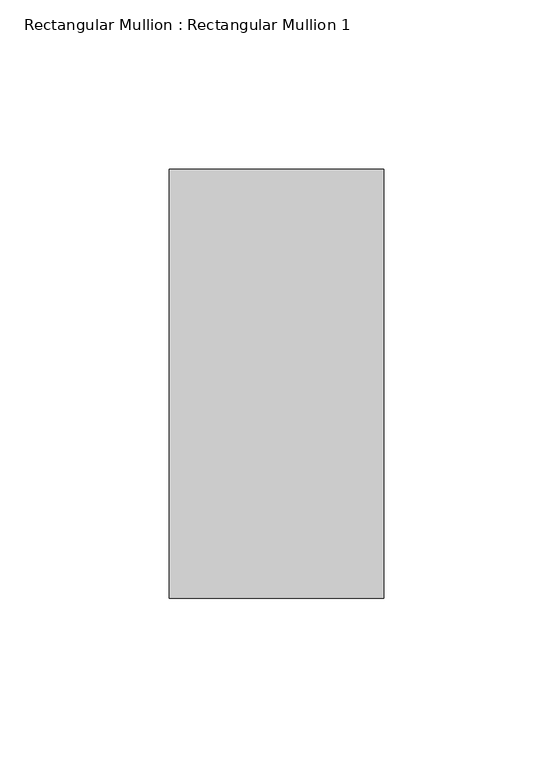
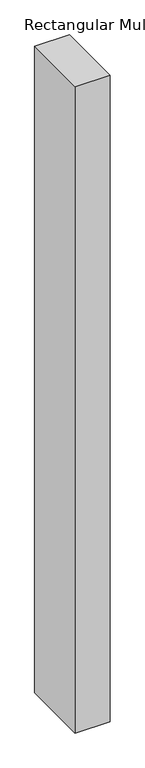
"""IFC4 building model written with IfcOpenShell, lengths in millimetres: member geometry, Rectangular Mullion : Rectangular Mullion 1."""

import ifcopenshell
import ifcopenshell.guid

model = None  # the IFC model being written
_history = None  # IfcOwnerHistory: only IFC2X3 demands one
_inside = {}  # id of a spatial element -> (the spatial element, [elements in it])
_under = {}  # id of a project, library or spatial element -> (it, [spatial elements below it])
_declared = {}  # id of a project -> (the project, [libraries it declares])
_typed = {}  # id of a type object -> (the type object, [elements of that type])
_made_of = {}  # id of a material, layer set ... -> (it, [elements and type objects made of it])


def new_model(schema):
    """Start an empty IFC model of exactly this schema.

    Asked for "IFC4X3", IfcOpenShell would pick the latest addendum, in which some entities
    have other attributes; the version numbers below select the first issue.
    IFC2X3 requires an IfcOwnerHistory on every rooted entity: one is made here for all.
    """
    global model, _history
    if schema == "IFC4X3":
        model = ifcopenshell.file(schema_version=(4, 3, 0, 0))
    else:
        model = ifcopenshell.file(schema=schema)
    _inside.clear()
    _under.clear()
    _declared.clear()
    _typed.clear()
    _made_of.clear()
    _history = None
    if model.schema == "IFC2X3":
        org = make("IfcOrganization", Name="unknown")
        user = make(
            "IfcPersonAndOrganization",
            ThePerson=make("IfcPerson", FamilyName="unknown"),
            TheOrganization=org,
        )
        app = make(
            "IfcApplication",
            ApplicationDeveloper=org,
            Version="unknown",
            ApplicationFullName="unknown",
            ApplicationIdentifier="unknown",
        )
        _history = make(
            "IfcOwnerHistory",
            OwningUser=user,
            OwningApplication=app,
            ChangeAction="ADDED",
            CreationDate=0,
        )
    return model


def make(cls, **values):
    """One entity of the class cls with the attributes given. An attribute that is None is left unset."""
    return model.create_entity(
        cls, **{name: value for name, value in values.items() if value is not None}
    )


def rooted(cls, **values):
    """An entity with a GlobalId (a new one), such as an element, a storey or a relation."""
    return make(cls, GlobalId=ifcopenshell.guid.new(), OwnerHistory=_history, **values)


def si_unit(unit_type, name, prefix=None):
    """IfcSIUnit, for example si_unit("LENGTHUNIT", "METRE", prefix="MILLI")."""
    return make("IfcSIUnit", UnitType=unit_type, Prefix=prefix, Name=name)


def assignment(units):
    """IfcUnitAssignment: the units of a project."""
    return None if units is None else make("IfcUnitAssignment", Units=units)


def point(xyz):
    """IfcCartesianPoint."""
    return None if xyz is None else make("IfcCartesianPoint", Coordinates=xyz)


def direction(xyz):
    """IfcDirection."""
    return None if xyz is None else make("IfcDirection", DirectionRatios=xyz)


def frame(location, z_axis=None, x_axis=None):
    """IfcAxis2Placement3D, a coordinate frame: its origin and axes. An axis left out is left unset."""
    return make(
        "IfcAxis2Placement3D",
        Location=point(location),
        Axis=direction(z_axis),
        RefDirection=direction(x_axis),
    )


def origin():
    """The frame at (0, 0, 0) with its axes left unset."""
    return frame((0.0, 0.0, 0.0))


def place(relative_to, where):
    """IfcLocalPlacement: puts the frame where relative to a parent placement (None: the world)."""
    return make(
        "IfcLocalPlacement", PlacementRelTo=relative_to, RelativePlacement=where
    )


def context(
    kind, dimensions, precision=None, world=None, true_north=None, identifier=None
):
    """IfcGeometricRepresentationContext, for example the 3D "Model" context."""
    return make(
        "IfcGeometricRepresentationContext",
        ContextIdentifier=identifier,
        ContextType=kind,
        CoordinateSpaceDimension=dimensions,
        Precision=precision,
        WorldCoordinateSystem=world,
        TrueNorth=true_north,
    )


def project(units=None, contexts=None):
    """IfcProject with its units and contexts."""
    return rooted(
        "IfcProject",
        Name="project",
        RepresentationContexts=contexts,
        UnitsInContext=assignment(units),
    )


def spatial(cls, under=None, at=None, **own):
    """A site, building, storey or space (cls), placed at a placement, below another one or the project."""
    s = rooted(cls, ObjectPlacement=at, **own)
    if under is not None:
        _under.setdefault(under.id(), (under, []))[1].append(s)
    return s


def polyline(points):
    """IfcPolyline through the points."""
    return make("IfcPolyline", Points=[point(p) for p in points])


def outline(outer, holes=None, kind="AREA"):
    """IfcArbitraryClosedProfileDef: a profile drawn as a closed curve; with holes, ...WithVoids."""
    if holes is None:
        return make("IfcArbitraryClosedProfileDef", ProfileType=kind, OuterCurve=outer)
    return make(
        "IfcArbitraryProfileDefWithVoids",
        ProfileType=kind,
        OuterCurve=outer,
        InnerCurves=holes,
    )


def extrude(swept, where, along, depth):
    """IfcExtrudedAreaSolid: the profile swept, set in the frame where, extruded along a direction by depth."""
    return make(
        "IfcExtrudedAreaSolid",
        SweptArea=swept,
        Position=where,
        ExtrudedDirection=direction(along),
        Depth=depth,
    )


def shape(context_of_items, identifier, shape_type, items):
    """IfcShapeRepresentation: the items that make up one representation, for example the "Body"."""
    return make(
        "IfcShapeRepresentation",
        ContextOfItems=context_of_items,
        RepresentationIdentifier=identifier,
        RepresentationType=shape_type,
        Items=items,
    )


def source(mapping_origin, context_of_items, identifier, shape_type, items):
    """IfcRepresentationMap: a shape defined once, which mapped items show again and again."""
    return make(
        "IfcRepresentationMap",
        MappingOrigin=mapping_origin,
        MappedRepresentation=shape(context_of_items, identifier, shape_type, items),
    )


def transform(
    local_origin,
    x_axis=None,
    y_axis=None,
    z_axis=None,
    scale=None,
    scale2=None,
    scale3=None,
    uniform=True,
):
    """IfcCartesianTransformationOperator3D, or its non-uniform kind. x_axis, y_axis, z_axis: its Axis1, 2, 3."""
    if uniform:
        return make(
            "IfcCartesianTransformationOperator3D",
            Axis1=direction(x_axis),
            Axis2=direction(y_axis),
            LocalOrigin=point(local_origin),
            Scale=scale,
            Axis3=direction(z_axis),
        )
    return make(
        "IfcCartesianTransformationOperator3DnonUniform",
        Axis1=direction(x_axis),
        Axis2=direction(y_axis),
        LocalOrigin=point(local_origin),
        Scale=scale,
        Axis3=direction(z_axis),
        Scale2=scale2,
        Scale3=scale3,
    )


def mapped(mapping_source, mapping_target):
    """IfcMappedItem: shows the shape of a source again, moved by a transform."""
    return make(
        "IfcMappedItem", MappingSource=mapping_source, MappingTarget=mapping_target
    )


def made_of(thing, what):
    """Note that an element or type object is made of a material, layer set ...; save() writes the relation."""
    if what is not None:
        _made_of.setdefault(what.id(), (what, []))[1].append(thing)
    return thing


def element(
    cls,
    number,
    at=None,
    inside=None,
    cuts=None,
    type_object=None,
    material=None,
    context=None,
    identifier="Body",
    shape_type=None,
    held_by="IfcProductDefinitionShape",
    body=None,
    shapes=None,
    **own,
):
    """One element of the class cls, such as IfcWall. Its Tag is "e" and its number.

    at: its placement. inside: the storey or other place that contains it. cuts: it is an
    opening in that element (IfcRelVoidsElement). A single representation is given by context,
    identifier, shape_type and body (its items); several are given by shapes. held_by: the class
    of the entity that holds the representations. save() writes the other relations.
    """
    e = rooted(cls, Tag="e%d" % number, ObjectPlacement=at, **own)
    if body is not None:
        shapes = [shape(context, identifier, shape_type, body)]
    if shapes is not None:
        e.Representation = make(held_by, Representations=shapes)
    if inside is not None:
        _inside.setdefault(inside.id(), (inside, []))[1].append(e)
    if cuts is not None:
        rooted(
            "IfcRelVoidsElement", RelatingBuildingElement=cuts, RelatedOpeningElement=e
        )
    if type_object is not None:
        _typed.setdefault(type_object.id(), (type_object, []))[1].append(e)
    return made_of(e, material)


def aggregate(whole, parts):
    """IfcRelAggregates: a whole, such as a stair, and the parts it consists of."""
    return rooted("IfcRelAggregates", RelatingObject=whole, RelatedObjects=parts)


def save(model, path):
    """Write the relations noted so far, then the file.

    IfcRelAggregates (storeys below a building ...), IfcRelContainedInSpatialStructure (elements
    in a storey), IfcRelDefinesByType, IfcRelAssociatesMaterial and IfcRelDeclares: one each for
    every whole, place, type object, material and project.
    """
    for whole, parts in _under.values():
        aggregate(whole, parts)
    for where, things in _inside.values():
        rooted(
            "IfcRelContainedInSpatialStructure",
            RelatedElements=things,
            RelatingStructure=where,
        )
    for kind, things in _typed.values():
        rooted("IfcRelDefinesByType", RelatedObjects=things, RelatingType=kind)
    for what, things in _made_of.values():
        rooted("IfcRelAssociatesMaterial", RelatedObjects=things, RelatingMaterial=what)
    for by, libraries in _declared.values():
        rooted("IfcRelDeclares", RelatingContext=by, RelatedDefinitions=libraries)
    model.write(path)


def rectangular_mullion_rectangular_mullion_1_30cce679(model_context):
    return source(origin(), model_context, "Body", "SweptSolid", [
        extrude(outline(polyline([(31.75, 63.5), (31.75, -63.5), (-31.75, -63.5), (-31.75, 63.5), (31.75, 63.5)])), frame((0.0, 0.0, -1240.8975583), z_axis=(0.0, 0.0, 1.0), x_axis=(1.0, 0.0, 0.0)), (0.0, 0.0, 1.0), 1240.8975583),
    ])


if __name__ == "__main__":
    model = new_model("IFC4")
    model_context = context("Model", 3, world=origin())
    ifc_project = project(units=[si_unit("LENGTHUNIT", "METRE", prefix="MILLI")], contexts=[model_context])
    site = spatial("IfcSite", under=ifc_project)
    building = spatial("IfcBuilding", under=site)
    placement = place(None, origin())
    rectangular_mullion_rectangular_mullion_1_shape = rectangular_mullion_rectangular_mullion_1_30cce679(model_context)
    element("IfcMember", 1, ObjectType="Rectangular Mullion : Rectangular Mullion 1", at=placement, inside=building, context=model_context, shape_type="MappedRepresentation", body=[
        mapped(rectangular_mullion_rectangular_mullion_1_shape, transform((0.0, 0.0, 0.0), x_axis=(1.0, 0.0, 0.0), y_axis=(0.0, 1.0, 0.0), z_axis=(0.0, 0.0, 1.0))),
    ])
    save(model, "model.ifc")
